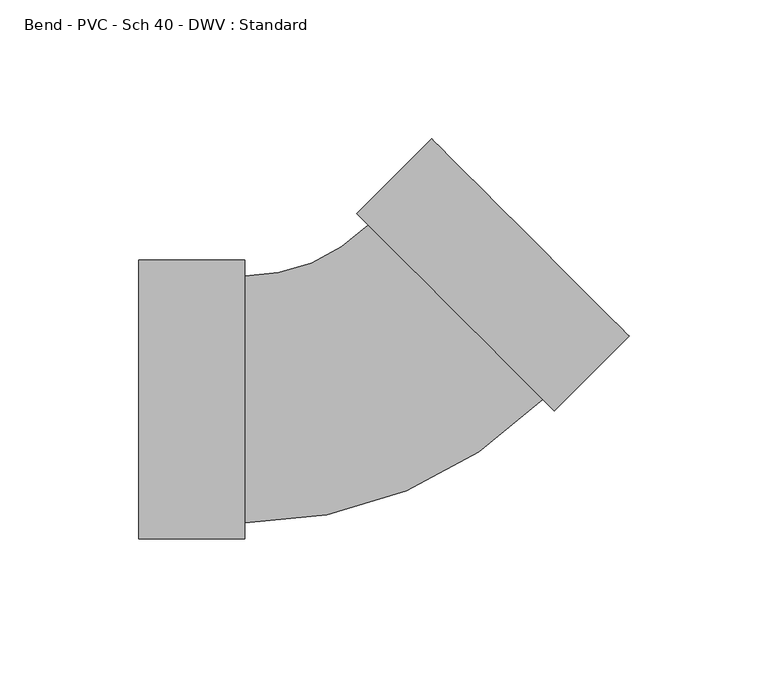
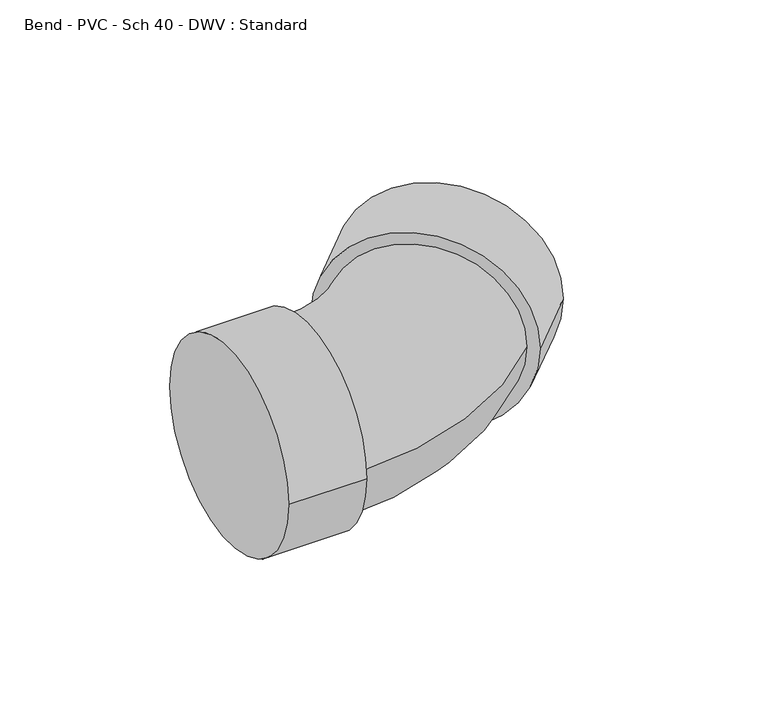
"""IFC4 building model written with IfcOpenShell, lengths in millimetres: pipe fitting geometry, Bend - PVC - Sch 40 - DWV : Standard."""

from ifc_helpers import new_model, si_unit, point, frame, origin, place, context, project, spatial, circle_curve, ellipse_curve, trimmed, source, transform, mapped, element, save
from ifc_brep_helpers import plane_surface, cylinder_surface, revolved_surface, advanced_brep


def bend_pvc_sch_40_dwv_standard_e57ccec4(model_context):
    return source(origin(), model_context, "Body", "AdvancedBrep", [
        advanced_brep(
        [(-82.55, -50.2666, 0.0), (-82.55, 50.2666, 0.0), (-44.45, -50.2666, 0.0), (-44.45, 50.2666, 0.0), (-44.45, -44.45, 0.0), (-44.45, 44.45, 0.0), (0.0012493, 62.8617928, 0.0), (62.8617928, -0.0012493, 0.0), (66.9746684, -4.1142884, 0.0), (-4.1116263, 66.9748319, 0.0), (93.9159722, 22.8259446, 0.0), (22.8296775, 93.9150648, 0.0)],
        [
            (0, 1, circle_curve(frame((-82.55, 0.0, 0.0), z_axis=(-1.0, 0.0, 0.0), x_axis=(0.0, 1.0, 0.0)), 50.2666)),
            (1, 0, circle_curve(frame((-82.55, 0.0, 0.0), z_axis=(-1.0, 0.0, 0.0), x_axis=(0.0, 1.0, 0.0)), 50.2666)),
            (2, 3, circle_curve(frame((-44.45, 0.0, 0.0), z_axis=(1.0, 0.0, 0.0), x_axis=(0.0, 1.0, 0.0)), 50.2666)),
            (3, 2, circle_curve(frame((-44.45, 0.0, 0.0), z_axis=(1.0, 0.0, 0.0), x_axis=(0.0, 1.0, 0.0)), 50.2666)),
            (4, 5, circle_curve(frame((-44.45, 0.0, 0.0), z_axis=(-1.0, 0.0, 0.0), x_axis=(0.0, 1.0, 0.0)), 44.45)),
            (5, 4, circle_curve(frame((-44.45, 0.0, 0.0), z_axis=(-1.0, 0.0, 0.0), x_axis=(0.0, 1.0, 0.0)), 44.45)),
            (0, 2),
            (3, 1),
            (6, 5, circle_curve(frame((-44.45, 107.314809, 0.0), z_axis=(0.0, 0.0, -1.0), x_axis=(0.0, -1.0, 0.0)), 62.864809)),
            (4, 7, circle_curve(frame((-44.45, 107.314809, 0.0), z_axis=(0.0, 0.0, 1.0), x_axis=(0.0, -1.0, 0.0)), 151.764809)),
            (7, 6, circle_curve(frame((31.4315211, 31.4302718, 0.0), z_axis=(-0.7071208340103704, -0.7070927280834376, 0.0), x_axis=(-0.7070927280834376, 0.7071208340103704, 0.0)), 44.45)),
            (6, 7, circle_curve(frame((31.4315211, 31.4302718, 0.0), z_axis=(-0.7071208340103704, -0.7070927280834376, 0.0), x_axis=(-0.7070927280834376, 0.7071208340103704, 0.0)), 44.45)),
            (8, 9, circle_curve(frame((31.4315211, 31.4302718, 0.0), z_axis=(-0.7071208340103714, -0.7070927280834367, 0.0), x_axis=(-0.7070927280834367, 0.7071208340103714, 0.0)), 50.2666)),
            (9, 8, circle_curve(frame((31.4315211, 31.4302718, 0.0), z_axis=(-0.7071208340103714, -0.7070927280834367, 0.0), x_axis=(-0.7070927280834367, 0.7071208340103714, 0.0)), 50.2666)),
            (10, 11, circle_curve(frame((58.3728248, 58.3705047, 0.0), z_axis=(0.7071208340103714, 0.7070927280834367, 0.0), x_axis=(-0.7070927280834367, 0.7071208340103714, 0.0)), 50.2666)),
            (11, 10, circle_curve(frame((58.3728248, 58.3705047, 0.0), z_axis=(0.7071208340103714, 0.7070927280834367, 0.0), x_axis=(-0.7070927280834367, 0.7071208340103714, 0.0)), 50.2666)),
            (8, 10),
            (11, 9),
        ],
        [
            plane_surface(frame((-82.55, 0.0, 0.0), z_axis=(-1.0, 0.0, 0.0), x_axis=(0.0, 0.0, 1.0))),
            plane_surface(frame((-44.45, 0.0, 0.0), z_axis=(1.0, 0.0, 0.0), x_axis=(0.0, 0.0, 1.0))),
            cylinder_surface(frame((-82.55, 0.0, 0.0), z_axis=(-1.0, 0.0, 0.0), x_axis=(0.0, 1.0, 0.0)), 50.2666),
            revolved_surface(trimmed(ellipse_curve(frame((-44.45, 0.0, 0.0), z_axis=(-1.0, 0.0, 0.0), x_axis=(0.0, 1.0, 0.0)), 44.45, 44.45), [point((-44.45, -44.45, 0.0))], [point((-44.45, 44.45, 0.0))], True, "CARTESIAN"), (-44.45, 107.314809, 0.0), (0.0, 0.0, 1.0)),
            revolved_surface(trimmed(ellipse_curve(frame((-44.45, 0.0, 0.0), z_axis=(-1.0, 0.0, 0.0), x_axis=(0.0, 1.0, 0.0)), 44.45, 44.45), [point((-44.45, 44.45, 0.0))], [point((-44.45, -44.45, 0.0))], True, "CARTESIAN"), (-44.45, 107.314809, 0.0), (0.0, 0.0, 1.0)),
            plane_surface(frame((31.4315211, 31.4302718, 0.0), z_axis=(-0.7071208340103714, -0.7070927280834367, 0.0), x_axis=(0.0, 0.0, 1.0))),
            plane_surface(frame((58.3728248, 58.3705047, 0.0), z_axis=(0.7071208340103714, 0.7070927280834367, 0.0), x_axis=(0.0, 0.0, 1.0))),
            cylinder_surface(frame((31.4315211, 31.4302718, 0.0), z_axis=(-0.7071208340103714, -0.7070927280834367, 0.0), x_axis=(-0.7070927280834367, 0.7071208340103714, 0.0)), 50.2666),
        ],
        [
            (0, [[1, 2]]),
            (1, [[3, 4], [5, 6]]),
            (2, [[-1, 7, -4, 8]]),
            (2, [[-2, -8, -3, -7]]),
            (3, [[9, -5, 10, 11]]),
            (4, [[-9, 12, -10, -6]]),
            (5, [[13, 14], [-11, -12]]),
            (6, [[15, 16]]),
            (7, [[-13, 17, -16, 18]]),
            (7, [[-14, -18, -15, -17]]),
        ],
    ),
    ])


if __name__ == "__main__":
    model = new_model("IFC4")
    model_context = context("Model", 3, world=origin())
    ifc_project = project(units=[si_unit("LENGTHUNIT", "METRE", prefix="MILLI")], contexts=[model_context])
    site = spatial("IfcSite", under=ifc_project)
    building = spatial("IfcBuilding", under=site)
    placement = place(None, origin())
    bend_pvc_sch_40_dwv_standard_shape = bend_pvc_sch_40_dwv_standard_e57ccec4(model_context)
    element("IfcPipeFitting", 1, ObjectType="Bend - PVC - Sch 40 - DWV : Standard", at=placement, inside=building, context=model_context, shape_type="MappedRepresentation", body=[
        mapped(bend_pvc_sch_40_dwv_standard_shape, transform((0.0, 0.0, 0.0), x_axis=(1.0, 0.0, 0.0), y_axis=(0.0, 1.0, 0.0), z_axis=(0.0, 0.0, 1.0))),
    ])
    save(model, "model.ifc")
